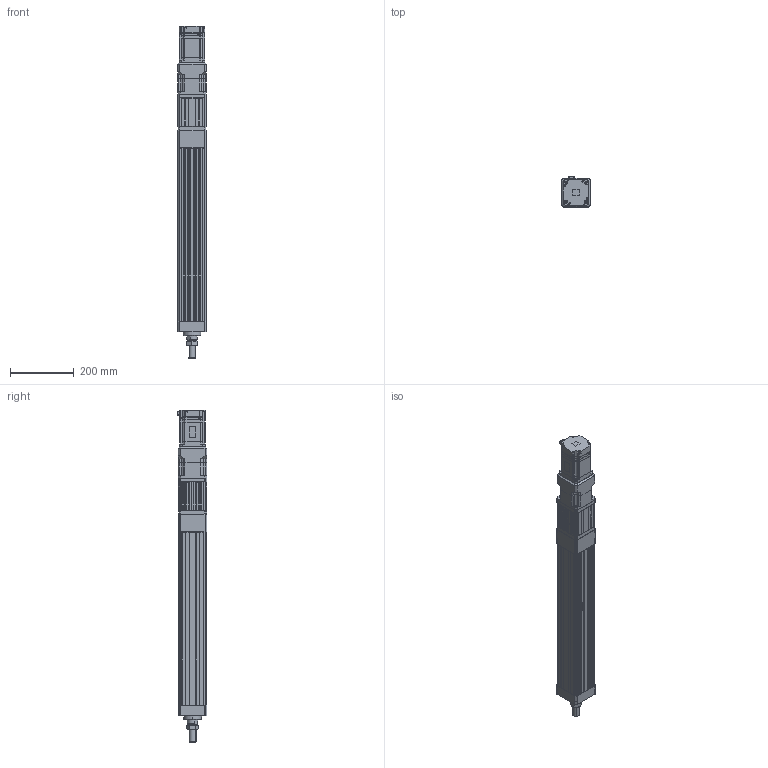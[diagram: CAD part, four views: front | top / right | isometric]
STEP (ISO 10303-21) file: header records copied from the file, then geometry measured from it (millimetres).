
FILE_DESCRIPTION (( 'STEP AP203' ), '1' );
FILE_NAME ('ANS090H-S400-05(10)(25)-W75G05-M.STEP', '2019-03-18T01:06:00', ( 'user' ), ( '' ), 'SwSTEP 2.0', 'SolidWorks 2013', '' );
FILE_SCHEMA (( 'CONFIG_CONTROL_DESIGN' ));
Length unit declared in the file: millimetre
Products named in the file (6): ANS090H-S400-05(10)(25)-W75G05-M; ANS090H S400 VER2; HEXNUT-M22X1.5P; ANS090 ROD ST400-M; SGMJV_08A_A21; AB090-005-S1-P2[YASKAWA SGMJV08A]
Assembly tree (5 placements, depth 2):
  ANS090H-S400-05(10)(25)-W75G05-M
    ANS090H S400 VER2
    HEXNUT-M22X1.5P
    ANS090 ROD ST400-M
    SGMJV_08A_A21
    AB090-005-S1-P2[YASKAWA SGMJV08A]
Bounding box: 90 x 93.8 x 1044.1 mm (x, y, z)
Volume: 3918512.8 mm3; surface area: 753840.4 mm2
Topology: 4 solids, 11 shells, 1615 faces, 4344 edges, 2802 vertices
Faces by surface type: plane 986, cylinder 481, cone 136, bspline 12
Entity records: 51143 total; most frequent: CARTESIAN_POINT 9819, ORIENTED_EDGE 8552, DIRECTION 8387, EDGE_CURVE 4320, LINE 3095, VECTOR 3095, VERTEX_POINT 2802, AXIS2_PLACEMENT_3D 2646
